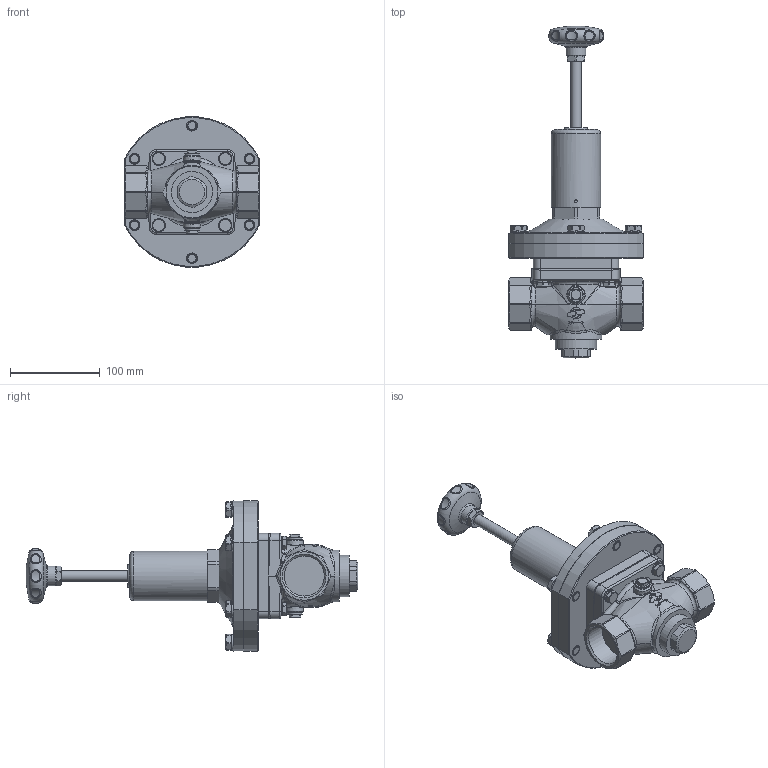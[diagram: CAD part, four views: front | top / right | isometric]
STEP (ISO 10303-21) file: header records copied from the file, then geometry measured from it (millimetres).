
FILE_DESCRIPTION(/* description */ (''),/* implementation_level */ '2;1');
FILE_NAME(/* name */ 'U:/AirCom-Produktdokumentation/Druckregler/RWI/Zeichnungen/CAD-Aircom/3D/B-RWI-12A.step',/* time_stamp */ '2022-07-04T09:50:22+02:00',/* author */ (''),/* organization */ (''),/* preprocessor_version */ 'ST-DEVELOPER v19',/* originating_system */ 'Autodesk Translation Framework v11.7.0.108',/* authorisation */ '');
FILE_SCHEMA (('AUTOMOTIVE_DESIGN { 1 0 10303 214 3 1 1 }'));
Products named in the file (1): 035006_step
Bounding box: 150 x 370.38 x 167.39 mm (x, y, z)
Volume: 1630279.5 mm3; surface area: 152119.4 mm2
Topology: 1 solids, 4 shells, 1102 faces, 2874 edges, 1828 vertices
Faces by surface type: plane 429, bspline 296, cylinder 217, cone 138, sphere 15, torus 7
Full cylindrical faces by diameter (mm): 3 x1, 8 x4, 9.5 x4, 10 x12, 10.7 x1, 11 x6, 12 x2, 13 x1, 14 x1, 14.7 x1, 16.5 x2, 22 x1, 44.845 x2, 46 x1, 53.8 x1, 55 x1, 58 x1
Entity records: 145467 total; most frequent: CARTESIAN_POINT 119717, ORIENTED_EDGE 5716, DIRECTION 4405, EDGE_CURVE 2858, VERTEX_POINT 1828, AXIS2_PLACEMENT_3D 1777, EDGE_LOOP 1178, FACE_OUTER_BOUND 1102
